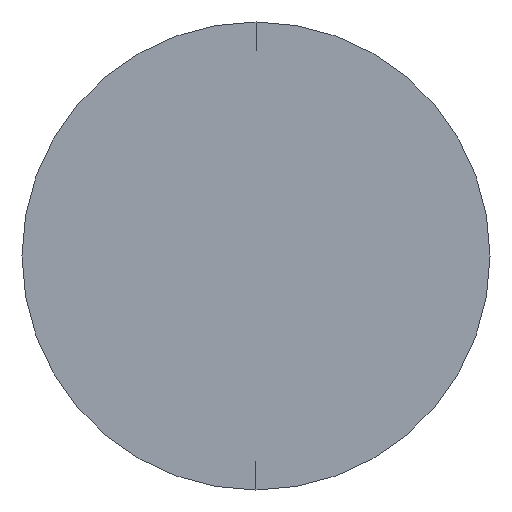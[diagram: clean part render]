
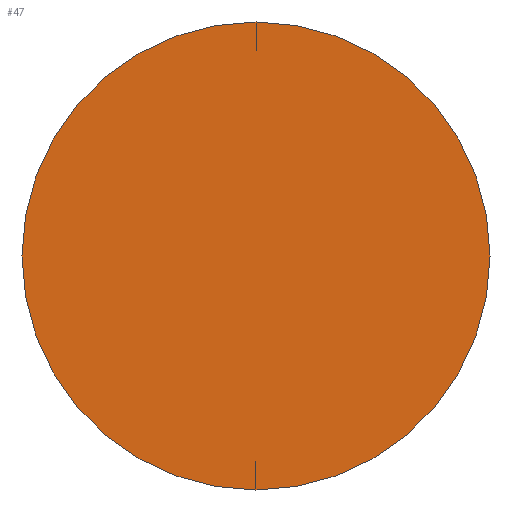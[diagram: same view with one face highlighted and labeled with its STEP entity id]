
A CAD part, left-side view. The second image highlights one B-rep face of the part: STEP entity #47.
In plain terms, the highlighted planar face has unit normal (-1, 0, 0).
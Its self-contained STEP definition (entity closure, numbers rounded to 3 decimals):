
#4 = AXIS2_PLACEMENT_3D ( 'NONE', #261, #123, #282 ) ;
#5 = VERTEX_POINT ( 'NONE', #226 ) ;
#25 = DIRECTION ( 'NONE',  ( -1., 0., 0. ) ) ;
#41 = DIRECTION ( 'NONE',  ( 0., 0., 1. ) ) ;
#47 = ADVANCED_FACE ( 'NONE', ( #232 ), #240, .F. ) ;
#69 = EDGE_CURVE ( 'NONE', #5, #106, #216, .T. ) ;
#85 = CARTESIAN_POINT ( 'NONE',  ( 0., 0., 1.4 ) ) ;
#106 = VERTEX_POINT ( 'NONE', #85 ) ;
#113 = DIRECTION ( 'NONE',  ( 0., 0., -1. ) ) ;
#123 = DIRECTION ( 'NONE',  ( -1., 0., 0. ) ) ;
#126 = AXIS2_PLACEMENT_3D ( 'NONE', #181, #25, #41 ) ;
#129 = ORIENTED_EDGE ( 'NONE', *, *, #69, .T. ) ;
#141 = AXIS2_PLACEMENT_3D ( 'NONE', #275, #231, #113 ) ;
#166 = EDGE_CURVE ( 'NONE', #106, #5, #210, .T. ) ;
#181 = CARTESIAN_POINT ( 'NONE',  ( 0., 0., 0. ) ) ;
#210 = CIRCLE ( 'NONE', #4, 1.4 ) ;
#211 = EDGE_LOOP ( 'NONE', ( #291, #129 ) ) ;
#216 = CIRCLE ( 'NONE', #126, 1.4 ) ;
#226 = CARTESIAN_POINT ( 'NONE',  ( 0., 0., -1.4 ) ) ;
#231 = DIRECTION ( 'NONE',  ( 1., 0., 0. ) ) ;
#232 = FACE_OUTER_BOUND ( 'NONE', #211, .T. ) ;
#240 = PLANE ( 'NONE',  #141 ) ;
#261 = CARTESIAN_POINT ( 'NONE',  ( 0., 0., 0. ) ) ;
#275 = CARTESIAN_POINT ( 'NONE',  ( 0., 0., 0. ) ) ;
#282 = DIRECTION ( 'NONE',  ( 0., 0., 1. ) ) ;
#291 = ORIENTED_EDGE ( 'NONE', *, *, #166, .T. ) ;
